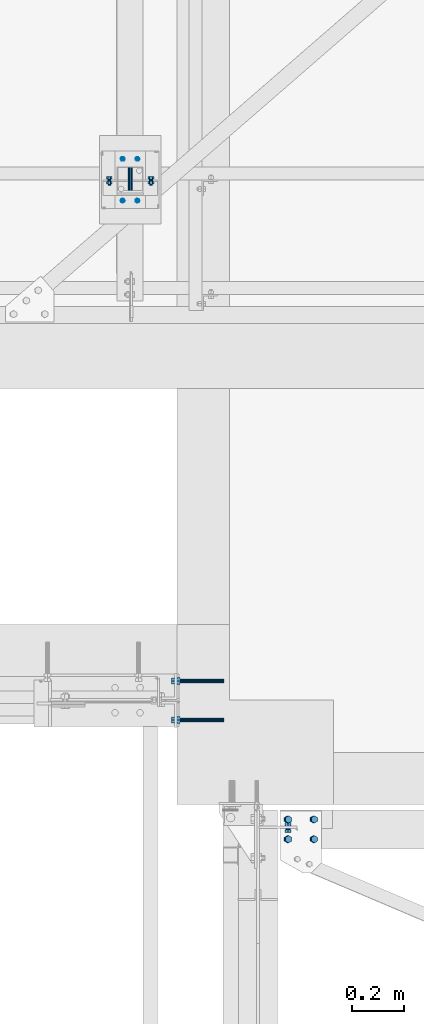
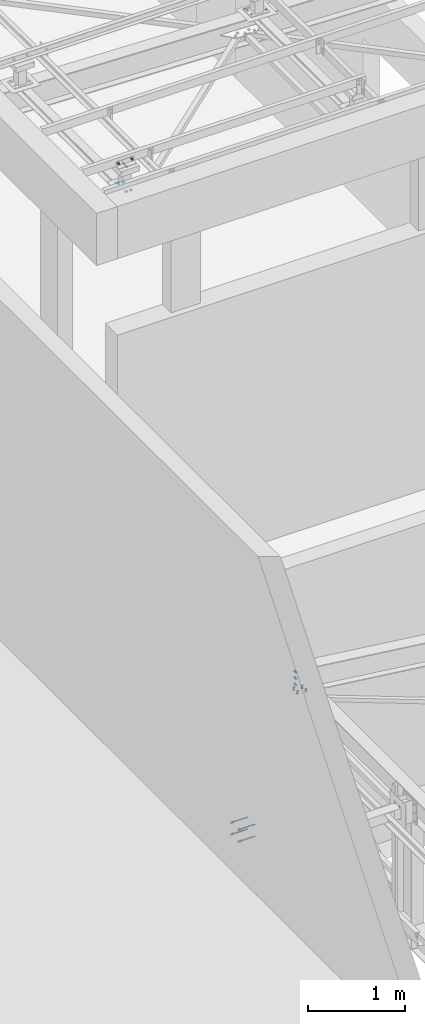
# One storey, part 222 of 3134: 8 mechanical fasteners, 5 elements without a shape of their own.
"""IFC2X3 building model written with IfcOpenShell, lengths in millimetres."""

from ifc_helpers import new_model, si_unit, frame, origin_with_axes, place, context, subcontext, project, spatial, faceted_brep, source, transform, mapped, material, type_object, element, aggregate, save


model = new_model("IFC2X3")

# Units and contexts
model_context = context("Model", 3, precision=1e-05, world=origin_with_axes())
body_context = subcontext(model_context, "Body", "Model", "MODEL_VIEW")
ifc_project = project(units=[si_unit("LENGTHUNIT", "METRE", prefix="MILLI"), si_unit("AREAUNIT", "SQUARE_METRE"), si_unit("VOLUMEUNIT", "CUBIC_METRE"), si_unit("MASSUNIT", "GRAM", prefix="KILO"), si_unit("TIMEUNIT", "SECOND"), si_unit("PLANEANGLEUNIT", "RADIAN"), si_unit("SOLIDANGLEUNIT", "STERADIAN"), si_unit("THERMODYNAMICTEMPERATUREUNIT", "DEGREE_CELSIUS"), si_unit("LUMINOUSINTENSITYUNIT", "LUMEN")], contexts=[model_context])

# Site, building, storey
site_placement = place(None, origin_with_axes())
site = spatial("IfcSite", under=ifc_project, at=site_placement, CompositionType="ELEMENT")
building_placement = place(site_placement, origin_with_axes())
building = spatial("IfcBuilding", under=site, at=building_placement, Name="Undefined", CompositionType="ELEMENT")
storey_placement = place(building_placement, origin_with_axes())
storey = spatial("IfcBuildingStorey", under=building, at=storey_placement, Name="Undefined", CompositionType="ELEMENT", Elevation=0.0)

# Assembly, mechanical fastener
assembly_1_placement = place(storey_placement, origin_with_axes())
assembly_1 = element("IfcElementAssembly", 1, at=assembly_1_placement, inside=storey, AssemblyPlace="NOTDEFINED", PredefinedType="RIGID_FRAME")
ifc_material_1 = material(Name="HILTI-HAS")
mechanical_fastener_type = type_object("IfcMechanicalFastenerType", Name="Bolt assembly")
shared_shape_1 = source(origin_with_axes(), body_context, "Body", "Brep", [
    faceted_brep([(13.856406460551, -20.56, 0.0), (6.92820323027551, -20.56, 12.0), (-6.92820323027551, -20.56, 12.0), (-13.856406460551, -20.56, 1.69692038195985e-15), (-6.92820323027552, -20.56, -12.0), (6.9282032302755, -20.56, -12.0), (6.9282032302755, -10.0, -12.0), (-6.92820323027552, -10.0, -12.0), (-13.856406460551, -10.0, 1.69692038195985e-15), (-6.92820323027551, -10.0, 12.0), (6.92820323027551, -10.0, 12.0), (13.856406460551, -10.0, 0.0), (8.0, -10.0, 0.0), (6.92820323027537, -10.0, 4.00000000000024), (3.99999999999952, -10.0, 6.92820323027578), (-8.29068785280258e-13, -10.0, 8.0), (-4.00000000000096, -10.0, 6.92820323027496), (-6.9282032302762, -10.0, 3.99999999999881), (-8.0, -10.0, -1.65813757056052e-12), (-6.92820323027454, -10.0, -4.00000000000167), (-3.99999999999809, -10.0, -6.92820323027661), (2.47832457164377e-12, -10.0, -8.0), (4.00000000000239, -10.0, -6.92820323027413), (6.92820323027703, -10.0, -3.99999999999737), (6.92820323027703, 180.0, -3.99999999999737), (4.00000000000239, 180.0, -6.92820323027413), (2.47832457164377e-12, 180.0, -8.0), (-3.99999999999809, 180.0, -6.92820323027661), (-6.92820323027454, 180.0, -4.00000000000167), (-8.0, 180.0, -1.65813757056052e-12), (-6.9282032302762, 180.0, 3.99999999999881), (-4.00000000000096, 180.0, 6.92820323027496), (-8.29068785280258e-13, 180.0, 8.0), (3.99999999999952, 180.0, 6.92820323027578), (6.92820323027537, 180.0, 4.00000000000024), (8.0, 180.0, 0.0), (15.3344231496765, 7.105427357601e-15, 0.0), (7.66721157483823, 7.105427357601e-15, 13.28), (-7.66721157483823, 7.105427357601e-15, 13.28), (-15.3344231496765, 7.105427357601e-15, 1.87792522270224e-15), (-7.66721157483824, 7.105427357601e-15, -13.28), (7.66721157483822, 7.105427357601e-15, -13.28), (7.66721157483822, 10.56, -13.28), (-7.66721157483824, 10.56, -13.28), (-15.3344231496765, 10.56, 1.87792522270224e-15), (-7.66721157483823, 10.56, 13.28), (7.66721157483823, 10.56, 13.28), (15.3344231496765, 10.56, 0.0)], [[[0, 1, 2, 3, 4, 5]], [[6, 7, 8, 9, 10, 11]], [[0, 11, 10, 1]], [[1, 10, 9, 2]], [[2, 9, 8, 3]], [[3, 8, 7, 4]], [[4, 7, 6, 5]], [[5, 6, 11, 0]], [[12, 13, 14, 15, 16, 17, 18, 19, 20, 21, 22, 23]], [[24, 25, 26, 27, 28, 29, 30, 31, 32, 33, 34, 35]], [[12, 35, 34, 13]], [[13, 34, 33, 14]], [[14, 33, 32, 15]], [[15, 32, 31, 16]], [[16, 31, 30, 17]], [[17, 30, 29, 18]], [[18, 29, 28, 19]], [[19, 28, 27, 20]], [[20, 27, 26, 21]], [[21, 26, 25, 22]], [[22, 25, 24, 23]], [[23, 24, 35, 12]], [[36, 37, 38, 39, 40, 41]], [[42, 43, 44, 45, 46, 47]], [[36, 47, 46, 37]], [[37, 46, 45, 38]], [[38, 45, 44, 39]], [[39, 44, 43, 40]], [[40, 43, 42, 41]], [[41, 42, 47, 36]]]),
    faceted_brep([(9.0, -10.0, 0.0), (7.79422863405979, -10.0, 4.50000000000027), (4.49999999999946, -10.0, 7.79422863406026), (-9.3270238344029e-13, -10.0, 9.0), (-4.50000000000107, -10.0, 7.79422863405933), (-7.79422863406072, -10.0, 4.49999999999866), (-9.0, -10.0, -1.86540476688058e-12), (-7.79422863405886, -10.0, -4.50000000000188), (-4.49999999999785, -10.0, -7.79422863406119), (2.78811514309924e-12, -10.0, -9.0), (4.50000000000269, -10.0, -7.7942286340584), (7.79422863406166, -10.0, -4.49999999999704), (7.79422863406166, 0.100000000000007, -4.49999999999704), (4.50000000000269, 0.100000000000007, -7.7942286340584), (2.78811514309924e-12, 0.100000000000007, -9.0), (-4.49999999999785, 0.100000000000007, -7.79422863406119), (-7.79422863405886, 0.100000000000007, -4.50000000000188), (-9.0, 0.100000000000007, -1.86540476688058e-12), (-7.79422863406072, 0.100000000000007, 4.49999999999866), (-4.50000000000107, 0.100000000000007, 7.79422863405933), (-9.3270238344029e-13, 0.100000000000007, 9.0), (4.49999999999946, 0.100000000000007, 7.79422863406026), (7.79422863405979, 0.100000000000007, 4.50000000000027), (9.0, 0.100000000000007, 0.0)], [[[0, 1, 2, 3, 4, 5, 6, 7, 8, 9, 10, 11]], [[12, 13, 14, 15, 16, 17, 18, 19, 20, 21, 22, 23]], [[0, 23, 22, 1]], [[1, 22, 21, 2]], [[2, 21, 20, 3]], [[3, 20, 19, 4]], [[4, 19, 18, 5]], [[5, 18, 17, 6]], [[6, 17, 16, 7]], [[7, 16, 15, 8]], [[8, 15, 14, 9]], [[9, 14, 13, 10]], [[10, 13, 12, 11]], [[11, 12, 23, 0]]]),
])
mechanical_fastener_1_placement = place(assembly_1_placement, frame((20539.9, 48449.04, 3641.57591409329), z_axis=(0.0, -1.0, 0.0), x_axis=(0.0, 0.0, -1.0)))
mechanical_fastener_1 = element("IfcMechanicalFastener", 2, at=mechanical_fastener_1_placement, type_object=mechanical_fastener_type, material=ifc_material_1, Name="Bolt assembly", NominalDiameter=16.0, NominalLength=190.0, context=body_context, shape_type="MappedRepresentation", body=[
    mapped(shared_shape_1, transform((0.0, 0.0, 0.0))),
    mapped(shared_shape_1, transform((150.0, 0.0, 0.0))),
])
aggregate(assembly_1, [mechanical_fastener_1])

assembly_2_placement = place(storey_placement, origin_with_axes())
assembly_2 = element("IfcElementAssembly", 3, at=assembly_2_placement, inside=storey, AssemblyPlace="NOTDEFINED", PredefinedType="RIGID_FRAME")
mechanical_fastener_2_placement = place(assembly_2_placement, frame((20539.9, 48599.04, 3641.57591409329), z_axis=(0.0, -1.0, 0.0), x_axis=(0.0, 0.0, -1.0)))
mechanical_fastener_2 = element("IfcMechanicalFastener", 4, at=mechanical_fastener_2_placement, type_object=mechanical_fastener_type, material=ifc_material_1, Name="Bolt assembly", NominalDiameter=16.0, NominalLength=190.0, context=body_context, shape_type="MappedRepresentation", body=[
    mapped(shared_shape_1, transform((0.0, 0.0, 0.0))),
    mapped(shared_shape_1, transform((150.0, 0.0, 0.0))),
])
aggregate(assembly_2, [mechanical_fastener_2])

# Assembly, mechanical fasteners
assembly_3_placement = place(storey_placement, origin_with_axes())
assembly_3 = element("IfcElementAssembly", 5, at=assembly_3_placement, inside=storey, Name="300", AssemblyPlace="NOTDEFINED", PredefinedType="RIGID_FRAME")
ifc_material_2 = material(Name="8.8")
shared_shape_2 = source(origin_with_axes(), body_context, "Body", "Brep", [
    faceted_brep([(13.856406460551, -19.199990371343, 0.0), (6.92820323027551, -19.199990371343, 12.0), (-6.92820323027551, -19.199990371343, 12.0), (-13.856406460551, -19.199990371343, 1.69692038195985e-15), (-6.92820323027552, -19.199990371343, -12.0), (6.9282032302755, -19.199990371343, -12.0), (6.9282032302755, -9.19999037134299, -12.0), (-6.92820323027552, -9.19999037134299, -12.0), (-13.856406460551, -9.19999037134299, 1.69692038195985e-15), (-6.92820323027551, -9.19999037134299, 12.0), (6.92820323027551, -9.19999037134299, 12.0), (13.856406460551, -9.19999037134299, 0.0), (8.0, -9.19999037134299, 0.0), (6.92820323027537, -9.19999037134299, 4.00000000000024), (3.99999999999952, -9.19999037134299, 6.92820323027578), (-8.29068785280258e-13, -9.19999037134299, 8.0), (-4.00000000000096, -9.19999037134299, 6.92820323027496), (-6.9282032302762, -9.19999037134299, 3.99999999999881), (-8.0, -9.19999037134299, -1.65813757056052e-12), (-6.92820323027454, -9.19999037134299, -4.00000000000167), (-3.99999999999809, -9.19999037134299, -6.92820323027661), (2.47832457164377e-12, -9.19999037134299, -8.0), (4.00000000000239, -9.19999037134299, -6.92820323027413), (6.92820323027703, -9.19999037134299, -3.99999999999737), (6.92820323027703, 25.800009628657, -3.99999999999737), (4.00000000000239, 25.800009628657, -6.92820323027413), (2.47832457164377e-12, 25.800009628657, -8.0), (-3.99999999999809, 25.800009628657, -6.92820323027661), (-6.92820323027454, 25.800009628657, -4.00000000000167), (-8.0, 25.800009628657, -1.65813757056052e-12), (-6.9282032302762, 25.800009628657, 3.99999999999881), (-4.00000000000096, 25.800009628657, 6.92820323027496), (-8.29068785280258e-13, 25.800009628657, 8.0), (3.99999999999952, 25.800009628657, 6.92820323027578), (6.92820323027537, 25.800009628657, 4.00000000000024), (8.0, 25.800009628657, 0.0), (13.856406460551, 8.00000637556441, 0.0), (6.92820323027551, 8.00000637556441, 12.0), (-6.92820323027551, 8.00000637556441, 12.0), (-13.856406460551, 8.00000637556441, 1.69692038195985e-15), (-6.92820323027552, 8.00000637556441, -12.0), (6.9282032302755, 8.00000637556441, -12.0), (6.9282032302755, 21.0000063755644, -12.0), (-6.92820323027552, 21.0000063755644, -12.0), (-13.856406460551, 21.0000063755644, 1.69692038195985e-15), (-6.92820323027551, 21.0000063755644, 12.0), (6.92820323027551, 21.0000063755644, 12.0), (13.856406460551, 21.0000063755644, 0.0)], [[[0, 1, 2, 3, 4, 5]], [[6, 7, 8, 9, 10, 11]], [[0, 11, 10, 1]], [[1, 10, 9, 2]], [[2, 9, 8, 3]], [[3, 8, 7, 4]], [[4, 7, 6, 5]], [[5, 6, 11, 0]], [[12, 13, 14, 15, 16, 17, 18, 19, 20, 21, 22, 23]], [[24, 25, 26, 27, 28, 29, 30, 31, 32, 33, 34, 35]], [[12, 35, 34, 13]], [[13, 34, 33, 14]], [[14, 33, 32, 15]], [[15, 32, 31, 16]], [[16, 31, 30, 17]], [[17, 30, 29, 18]], [[18, 29, 28, 19]], [[19, 28, 27, 20]], [[20, 27, 26, 21]], [[21, 26, 25, 22]], [[22, 25, 24, 23]], [[23, 24, 35, 12]], [[36, 37, 38, 39, 40, 41]], [[42, 43, 44, 45, 46, 47]], [[36, 47, 46, 37]], [[37, 46, 45, 38]], [[38, 45, 44, 39]], [[39, 44, 43, 40]], [[40, 43, 42, 41]], [[41, 42, 47, 36]]]),
    faceted_brep([(9.0, -0.1, 0.0), (7.79422863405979, -0.1, 4.50000000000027), (4.49999999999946, -0.1, 7.79422863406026), (-9.3270238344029e-13, -0.1, 9.0), (-4.50000000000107, -0.1, 7.79422863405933), (-7.79422863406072, -0.1, 4.49999999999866), (-9.0, -0.1, -1.86540476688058e-12), (-7.79422863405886, -0.1, -4.50000000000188), (-4.49999999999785, -0.1, -7.79422863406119), (2.78811514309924e-12, -0.1, -9.0), (4.50000000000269, -0.1, -7.7942286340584), (7.79422863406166, -0.1, -4.49999999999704), (7.79422863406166, 8.00000000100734, -4.49999999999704), (4.50000000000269, 8.00000000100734, -7.7942286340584), (2.78811514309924e-12, 8.00000000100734, -9.0), (-4.49999999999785, 8.00000000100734, -7.79422863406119), (-7.79422863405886, 8.00000000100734, -4.50000000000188), (-9.0, 8.00000000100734, -1.86540476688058e-12), (-7.79422863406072, 8.00000000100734, 4.49999999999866), (-4.50000000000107, 8.00000000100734, 7.79422863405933), (-9.3270238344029e-13, 8.00000000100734, 9.0), (4.49999999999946, 8.00000000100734, 7.79422863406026), (7.79422863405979, 8.00000000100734, 4.50000000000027), (9.0, 8.00000000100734, 0.0), (9.0, -9.09999037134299, 0.0), (7.79422863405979, -9.09999037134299, 4.50000000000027), (4.49999999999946, -9.09999037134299, 7.79422863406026), (-9.3270238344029e-13, -9.09999037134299, 9.0), (-4.50000000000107, -9.09999037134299, 7.79422863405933), (-7.79422863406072, -9.09999037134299, 4.49999999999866), (-9.0, -9.09999037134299, -1.86540476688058e-12), (-7.79422863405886, -9.09999037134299, -4.50000000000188), (-4.49999999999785, -9.09999037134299, -7.79422863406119), (2.78811514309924e-12, -9.09999037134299, -9.0), (4.50000000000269, -9.09999037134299, -7.7942286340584), (7.79422863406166, -9.09999037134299, -4.49999999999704), (7.79422863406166, 0.100000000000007, -4.49999999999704), (4.50000000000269, 0.100000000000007, -7.7942286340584), (2.78811514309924e-12, 0.100000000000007, -9.0), (-4.49999999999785, 0.100000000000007, -7.79422863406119), (-7.79422863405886, 0.100000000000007, -4.50000000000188), (-9.0, 0.100000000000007, -1.86540476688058e-12), (-7.79422863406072, 0.100000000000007, 4.49999999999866), (-4.50000000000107, 0.100000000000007, 7.79422863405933), (-9.3270238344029e-13, 0.100000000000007, 9.0), (4.49999999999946, 0.100000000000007, 7.79422863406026), (7.79422863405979, 0.100000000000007, 4.50000000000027), (9.0, 0.100000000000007, 0.0)], [[[0, 1, 2, 3, 4, 5, 6, 7, 8, 9, 10, 11]], [[12, 13, 14, 15, 16, 17, 18, 19, 20, 21, 22, 23]], [[0, 23, 22, 1]], [[1, 22, 21, 2]], [[2, 21, 20, 3]], [[3, 20, 19, 4]], [[4, 19, 18, 5]], [[5, 18, 17, 6]], [[6, 17, 16, 7]], [[7, 16, 15, 8]], [[8, 15, 14, 9]], [[9, 14, 13, 10]], [[10, 13, 12, 11]], [[11, 12, 23, 0]], [[24, 25, 26, 27, 28, 29, 30, 31, 32, 33, 34, 35]], [[36, 37, 38, 39, 40, 41, 42, 43, 44, 45, 46, 47]], [[24, 47, 46, 25]], [[25, 46, 45, 26]], [[26, 45, 44, 27]], [[27, 44, 43, 28]], [[28, 43, 42, 29]], [[29, 42, 41, 30]], [[30, 41, 40, 31]], [[31, 40, 39, 32]], [[32, 39, 38, 33]], [[33, 38, 37, 34]], [[34, 37, 36, 35]], [[35, 36, 47, 24]]]),
])
mechanical_fastener_3_placement = place(assembly_3_placement, frame((21064.0403957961, 48067.9995130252, 5493.64962652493), z_axis=(0.992623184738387, 1.63108538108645e-05, -0.12124031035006), x_axis=(1.62000016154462e-05, -0.999999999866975, -1.90000018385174e-06)))
mechanical_fastener_3 = element("IfcMechanicalFastener", 6, at=mechanical_fastener_3_placement, type_object=mechanical_fastener_type, material=ifc_material_2, Name="Bolt assembly", NominalDiameter=16.0, NominalLength=35.0, context=body_context, shape_type="MappedRepresentation", body=[
    mapped(shared_shape_2, transform((0.0, 0.0, 0.0))),
    mapped(shared_shape_2, transform((76.0, 0.0, 0.0))),
])
mechanical_fastener_4_placement = place(assembly_3_placement, frame((20964.7780773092, 48067.9995130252, 5505.77365756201), z_axis=(0.992623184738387, 1.63108538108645e-05, -0.12124031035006), x_axis=(1.62000016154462e-05, -0.999999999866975, -1.90000018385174e-06)))
mechanical_fastener_4 = element("IfcMechanicalFastener", 7, at=mechanical_fastener_4_placement, type_object=mechanical_fastener_type, material=ifc_material_2, Name="Bolt assembly", NominalDiameter=16.0, NominalLength=35.0, context=body_context, shape_type="MappedRepresentation", body=[
    mapped(shared_shape_2, transform((0.0, 0.0, 0.0))),
    mapped(shared_shape_2, transform((76.0, 0.0, 0.0))),
])
shared_shape_3 = source(origin_with_axes(), body_context, "Body", "Brep", [
    faceted_brep([(13.856406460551, -13.0499999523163, 0.0), (6.92820323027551, -13.0499999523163, 12.0), (-6.92820323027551, -13.0499999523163, 12.0), (-13.856406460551, -13.0499999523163, 1.69692038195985e-15), (-6.92820323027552, -13.0499999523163, -12.0), (6.9282032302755, -13.0499999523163, -12.0), (6.9282032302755, -3.04999995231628, -12.0), (-6.92820323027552, -3.04999995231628, -12.0), (-13.856406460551, -3.04999995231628, 1.69692038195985e-15), (-6.92820323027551, -3.04999995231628, 12.0), (6.92820323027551, -3.04999995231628, 12.0), (13.856406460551, -3.04999995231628, 0.0), (8.0, -3.04999995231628, 0.0), (6.92820323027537, -3.04999995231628, 4.00000000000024), (3.99999999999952, -3.04999995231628, 6.92820323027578), (-8.29068785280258e-13, -3.04999995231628, 8.0), (-4.00000000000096, -3.04999995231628, 6.92820323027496), (-6.9282032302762, -3.04999995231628, 3.99999999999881), (-8.0, -3.04999995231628, -1.65813757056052e-12), (-6.92820323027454, -3.04999995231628, -4.00000000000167), (-3.99999999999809, -3.04999995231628, -6.92820323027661), (2.47832457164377e-12, -3.04999995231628, -8.0), (4.00000000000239, -3.04999995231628, -6.92820323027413), (6.92820323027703, -3.04999995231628, -3.99999999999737), (6.92820323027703, 31.9500000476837, -3.99999999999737), (4.00000000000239, 31.9500000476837, -6.92820323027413), (2.47832457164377e-12, 31.9500000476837, -8.0), (-3.99999999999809, 31.9500000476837, -6.92820323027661), (-6.92820323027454, 31.9500000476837, -4.00000000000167), (-8.0, 31.9500000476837, -1.65813757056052e-12), (-6.9282032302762, 31.9500000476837, 3.99999999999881), (-4.00000000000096, 31.9500000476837, 6.92820323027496), (-8.29068785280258e-13, 31.9500000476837, 8.0), (3.99999999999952, 31.9500000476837, 6.92820323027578), (6.92820323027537, 31.9500000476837, 4.00000000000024), (8.0, 31.9500000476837, 0.0), (13.856406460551, 13.0500000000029, 0.0), (6.92820323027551, 13.0500000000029, 12.0), (-6.92820323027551, 13.0500000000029, 12.0), (-13.856406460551, 13.0500000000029, 1.69692038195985e-15), (-6.92820323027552, 13.0500000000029, -12.0), (6.9282032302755, 13.0500000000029, -12.0), (6.9282032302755, 26.0500000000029, -12.0), (-6.92820323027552, 26.0500000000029, -12.0), (-13.856406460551, 26.0500000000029, 1.69692038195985e-15), (-6.92820323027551, 26.0500000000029, 12.0), (6.92820323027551, 26.0500000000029, 12.0), (13.856406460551, 26.0500000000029, 0.0)], [[[0, 1, 2, 3, 4, 5]], [[6, 7, 8, 9, 10, 11]], [[0, 11, 10, 1]], [[1, 10, 9, 2]], [[2, 9, 8, 3]], [[3, 8, 7, 4]], [[4, 7, 6, 5]], [[5, 6, 11, 0]], [[12, 13, 14, 15, 16, 17, 18, 19, 20, 21, 22, 23]], [[24, 25, 26, 27, 28, 29, 30, 31, 32, 33, 34, 35]], [[12, 35, 34, 13]], [[13, 34, 33, 14]], [[14, 33, 32, 15]], [[15, 32, 31, 16]], [[16, 31, 30, 17]], [[17, 30, 29, 18]], [[18, 29, 28, 19]], [[19, 28, 27, 20]], [[20, 27, 26, 21]], [[21, 26, 25, 22]], [[22, 25, 24, 23]], [[23, 24, 35, 12]], [[36, 37, 38, 39, 40, 41]], [[42, 43, 44, 45, 46, 47]], [[36, 47, 46, 37]], [[37, 46, 45, 38]], [[38, 45, 44, 39]], [[39, 44, 43, 40]], [[40, 43, 42, 41]], [[41, 42, 47, 36]]]),
    faceted_brep([(9.0, 2.95000000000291, 0.0), (7.79422863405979, 2.95000000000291, 4.50000000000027), (4.49999999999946, 2.95000000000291, 7.79422863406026), (-9.3270238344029e-13, 2.95000000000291, 9.0), (-4.50000000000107, 2.95000000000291, 7.79422863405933), (-7.79422863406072, 2.95000000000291, 4.49999999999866), (-9.0, 2.95000000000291, -1.86540476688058e-12), (-7.79422863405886, 2.95000000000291, -4.50000000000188), (-4.49999999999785, 2.95000000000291, -7.79422863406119), (2.78811514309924e-12, 2.95000000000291, -9.0), (4.50000000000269, 2.95000000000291, -7.7942286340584), (7.79422863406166, 2.95000000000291, -4.49999999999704), (7.79422863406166, 13.0500000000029, -4.49999999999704), (4.50000000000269, 13.0500000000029, -7.7942286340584), (2.78811514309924e-12, 13.0500000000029, -9.0), (-4.49999999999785, 13.0500000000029, -7.79422863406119), (-7.79422863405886, 13.0500000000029, -4.50000000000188), (-9.0, 13.0500000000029, -1.86540476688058e-12), (-7.79422863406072, 13.0500000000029, 4.49999999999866), (-4.50000000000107, 13.0500000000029, 7.79422863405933), (-9.3270238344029e-13, 13.0500000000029, 9.0), (4.49999999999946, 13.0500000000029, 7.79422863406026), (7.79422863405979, 13.0500000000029, 4.50000000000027), (9.0, 13.0500000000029, 0.0), (9.0, -2.94999995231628, 0.0), (7.79422863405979, -2.94999995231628, 4.50000000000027), (4.49999999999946, -2.94999995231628, 7.79422863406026), (-9.3270238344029e-13, -2.94999995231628, 9.0), (-4.50000000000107, -2.94999995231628, 7.79422863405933), (-7.79422863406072, -2.94999995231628, 4.49999999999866), (-9.0, -2.94999995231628, -1.86540476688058e-12), (-7.79422863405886, -2.94999995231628, -4.50000000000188), (-4.49999999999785, -2.94999995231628, -7.79422863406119), (2.78811514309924e-12, -2.94999995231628, -9.0), (4.50000000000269, -2.94999995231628, -7.7942286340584), (7.79422863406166, -2.94999995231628, -4.49999999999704), (7.79422863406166, 3.14999995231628, -4.49999999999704), (4.50000000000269, 3.14999995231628, -7.7942286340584), (2.78811514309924e-12, 3.14999995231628, -9.0), (-4.49999999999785, 3.14999995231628, -7.79422863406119), (-7.79422863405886, 3.14999995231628, -4.50000000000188), (-9.0, 3.14999995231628, -1.86540476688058e-12), (-7.79422863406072, 3.14999995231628, 4.49999999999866), (-4.50000000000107, 3.14999995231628, 7.79422863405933), (-9.3270238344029e-13, 3.14999995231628, 9.0), (4.49999999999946, 3.14999995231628, 7.79422863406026), (7.79422863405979, 3.14999995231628, 4.50000000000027), (9.0, 3.14999995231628, 0.0)], [[[0, 1, 2, 3, 4, 5, 6, 7, 8, 9, 10, 11]], [[12, 13, 14, 15, 16, 17, 18, 19, 20, 21, 22, 23]], [[0, 23, 22, 1]], [[1, 22, 21, 2]], [[2, 21, 20, 3]], [[3, 20, 19, 4]], [[4, 19, 18, 5]], [[5, 18, 17, 6]], [[6, 17, 16, 7]], [[7, 16, 15, 8]], [[8, 15, 14, 9]], [[9, 14, 13, 10]], [[10, 13, 12, 11]], [[11, 12, 23, 0]], [[24, 25, 26, 27, 28, 29, 30, 31, 32, 33, 34, 35]], [[36, 37, 38, 39, 40, 41, 42, 43, 44, 45, 46, 47]], [[24, 47, 46, 25]], [[25, 46, 45, 26]], [[26, 45, 44, 27]], [[27, 44, 43, 28]], [[28, 43, 42, 29]], [[29, 42, 41, 30]], [[30, 41, 40, 31]], [[31, 40, 39, 32]], [[32, 39, 38, 33]], [[33, 38, 37, 34]], [[34, 37, 36, 35]], [[35, 36, 47, 24]]]),
])
mechanical_fastener_5_placement = place(assembly_3_placement, frame((20965.0, 48030.0, 5735.35014950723), z_axis=(1.0, 0.0, 0.0), x_axis=(0.0, 0.0, -1.0)))
mechanical_fastener_5 = element("IfcMechanicalFastener", 8, at=mechanical_fastener_5_placement, type_object=mechanical_fastener_type, material=ifc_material_2, Name="Bolt assembly", NominalDiameter=16.0, NominalLength=35.0, context=body_context, shape_type="MappedRepresentation", body=[
    mapped(shared_shape_3, transform((0.0, 0.0, 0.0))),
    mapped(shared_shape_3, transform((80.0, 0.0, 0.0))),
    mapped(shared_shape_3, transform((160.0, 0.0, 0.0))),
])
aggregate(assembly_3, [mechanical_fastener_3, mechanical_fastener_4, mechanical_fastener_5])

# Assembly, mechanical fastener
assembly_4_placement = place(storey_placement, origin_with_axes())
assembly_4 = element("IfcElementAssembly", 9, at=assembly_4_placement, inside=storey, AssemblyPlace="NOTDEFINED", PredefinedType="RIGID_FRAME")
shared_shape_4 = source(origin_with_axes(), body_context, "Body", "Brep", [
    faceted_brep([(7.0, 13.0000253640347, 0.0), (6.06217782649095, 13.0000253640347, 3.50000000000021), (3.49999999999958, 13.0000253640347, 6.06217782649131), (-7.25435187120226e-13, 13.0000253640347, 7.0), (-3.50000000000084, 13.0000253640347, 6.06217782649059), (-6.06217782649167, 13.0000253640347, 3.49999999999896), (-7.0, 13.0000253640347, -1.45087037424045e-12), (-6.06217782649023, 13.0000253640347, -3.50000000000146), (-3.49999999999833, 13.0000253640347, -6.06217782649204), (2.1685340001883e-12, 13.0000253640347, -7.0), (3.50000000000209, 13.0000253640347, -6.06217782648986), (6.0621778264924, 13.0000253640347, -3.4999999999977), (6.0621778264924, 15.0999999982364, -3.4999999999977), (3.50000000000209, 15.0999999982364, -6.06217782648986), (2.1685340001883e-12, 15.0999999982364, -7.0), (-3.49999999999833, 15.0999999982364, -6.06217782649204), (-6.06217782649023, 15.0999999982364, -3.50000000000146), (-7.0, 15.0999999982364, -1.45087037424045e-12), (-6.06217782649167, 15.0999999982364, 3.49999999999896), (-3.50000000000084, 15.0999999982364, 6.06217782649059), (-7.25435187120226e-13, 15.0999999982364, 7.0), (3.49999999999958, 15.0999999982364, 6.06217782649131), (6.06217782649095, 15.0999999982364, 3.50000000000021), (7.0, 15.0999999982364, 0.0)], [[[0, 1, 2, 3, 4, 5, 6, 7, 8, 9, 10, 11]], [[12, 13, 14, 15, 16, 17, 18, 19, 20, 21, 22, 23]], [[0, 23, 22, 1]], [[1, 22, 21, 2]], [[2, 21, 20, 3]], [[3, 20, 19, 4]], [[4, 19, 18, 5]], [[5, 18, 17, 6]], [[6, 17, 16, 7]], [[7, 16, 15, 8]], [[8, 15, 14, 9]], [[9, 14, 13, 10]], [[10, 13, 12, 11]], [[11, 12, 23, 0]]]),
])
mechanical_fastener_6_placement = place(assembly_4_placement, frame((20331.360203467, 50520.0016352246, 10555.8249309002), z_axis=(0.0, -1.0, 0.0), x_axis=(0.999519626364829, 0.0, -0.030992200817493)))
mechanical_fastener_6 = element("IfcMechanicalFastener", 10, at=mechanical_fastener_6_placement, type_object=mechanical_fastener_type, material=ifc_material_2, Name="Bolt assembly", NominalDiameter=12.0, NominalLength=2.0, context=body_context, shape_type="MappedRepresentation", body=[
    mapped(shared_shape_4, transform((0.0, 5.3114490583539e-10, 79.9999999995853))),
    mapped(shared_shape_4, transform((55.9999999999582, 4.54747350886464e-13, 80.0))),
    mapped(shared_shape_4, transform((0.0, -5.32963895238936e-10, -79.9999999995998))),
    mapped(shared_shape_4, transform((55.9999999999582, 4.54747350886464e-13, -80.0))),
])
aggregate(assembly_4, [mechanical_fastener_6])

# Assembly, mechanical fasteners
assembly_5_placement = place(storey_placement, origin_with_axes())
assembly_5 = element("IfcElementAssembly", 11, at=assembly_5_placement, inside=storey, AssemblyPlace="NOTDEFINED", PredefinedType="RIGID_FRAME")
shared_shape_5 = source(origin_with_axes(), body_context, "Body", "Brep", [
    faceted_brep([(9.0, -50.0, 0.0), (7.79422863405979, -50.0, 4.50000000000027), (4.49999999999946, -50.0, 7.79422863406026), (-9.3270238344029e-13, -50.0, 9.0), (-4.50000000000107, -50.0, 7.79422863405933), (-7.79422863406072, -50.0, 4.49999999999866), (-9.0, -50.0, -1.86540476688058e-12), (-7.79422863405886, -50.0, -4.50000000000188), (-4.49999999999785, -50.0, -7.79422863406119), (2.78811514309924e-12, -50.0, -9.0), (4.50000000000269, -50.0, -7.7942286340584), (7.79422863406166, -50.0, -4.49999999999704), (7.79422863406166, 50.1, -4.49999999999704), (4.50000000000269, 50.1, -7.7942286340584), (2.78811514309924e-12, 50.1, -9.0), (-4.49999999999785, 50.1, -7.79422863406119), (-7.79422863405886, 50.1, -4.50000000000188), (-9.0, 50.1, -1.86540476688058e-12), (-7.79422863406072, 50.1, 4.49999999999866), (-4.50000000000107, 50.1, 7.79422863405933), (-9.3270238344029e-13, 50.1, 9.0), (4.49999999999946, 50.1, 7.79422863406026), (7.79422863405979, 50.1, 4.50000000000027), (9.0, 50.1, 0.0)], [[[0, 1, 2, 3, 4, 5, 6, 7, 8, 9, 10, 11]], [[12, 13, 14, 15, 16, 17, 18, 19, 20, 21, 22, 23]], [[0, 23, 22, 1]], [[1, 22, 21, 2]], [[2, 21, 20, 3]], [[3, 20, 19, 4]], [[4, 19, 18, 5]], [[5, 18, 17, 6]], [[6, 17, 16, 7]], [[7, 16, 15, 8]], [[8, 15, 14, 9]], [[9, 14, 13, 10]], [[10, 13, 12, 11]], [[11, 12, 23, 0]]]),
])
mechanical_fastener_7_placement = place(assembly_5_placement, frame((20360.0, 50520.0, 10851.0), z_axis=(-1.0, 0.0, 0.0), x_axis=(0.0, 0.0, 1.0)))
mechanical_fastener_7 = element("IfcMechanicalFastener", 12, at=mechanical_fastener_7_placement, type_object=mechanical_fastener_type, material=ifc_material_2, Name="Bolt assembly", NominalDiameter=16.0, NominalLength=100.0, context=body_context, shape_type="MappedRepresentation", body=[
    mapped(shared_shape_5, transform((0.0, 0.0, 0.0))),
])
shared_shape_6 = source(origin_with_axes(), body_context, "Body", "Brep", [
    faceted_brep([(10.9696551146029, -12.0, 0.0), (5.48482755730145, -12.0, 9.5), (-5.48482755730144, -12.0, 9.5), (-10.9696551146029, -12.0, 1.34339530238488e-15), (-5.48482755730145, -12.0, -9.5), (5.48482755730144, -12.0, -9.50000000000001), (5.48482755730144, -4.0, -9.50000000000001), (-5.48482755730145, -4.0, -9.5), (-10.9696551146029, -4.0, 1.34339530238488e-15), (-5.48482755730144, -4.0, 9.5), (5.48482755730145, -4.0, 9.5), (10.9696551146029, -4.0, 0.0), (6.0, -4.0, 0.0), (5.19615242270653, -4.0, 3.00000000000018), (2.99999999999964, -4.0, 5.19615242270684), (-6.21801588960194e-13, -4.0, 6.0), (-3.00000000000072, -4.0, 5.19615242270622), (-5.19615242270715, -4.0, 2.9999999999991), (-6.0, -4.0, -1.24360317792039e-12), (-5.19615242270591, -4.0, -3.00000000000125), (-2.99999999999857, -4.0, -5.19615242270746), (1.85874342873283e-12, -4.0, -6.0), (3.00000000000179, -4.0, -5.1961524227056), (5.19615242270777, -4.0, -2.99999999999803), (5.19615242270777, 21.0, -2.99999999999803), (3.00000000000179, 21.0, -5.1961524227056), (1.85874342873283e-12, 21.0, -6.0), (-2.99999999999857, 21.0, -5.19615242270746), (-5.19615242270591, 21.0, -3.00000000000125), (-6.0, 21.0, -1.24360317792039e-12), (-5.19615242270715, 21.0, 2.9999999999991), (-3.00000000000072, 21.0, 5.19615242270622), (-6.21801588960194e-13, 21.0, 6.0), (2.99999999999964, 21.0, 5.19615242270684), (5.19615242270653, 21.0, 3.00000000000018), (6.0, 21.0, 0.0), (10.9696551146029, 6.00000000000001, 0.0), (5.48482755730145, 6.00000000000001, 9.5), (-5.48482755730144, 6.00000000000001, 9.5), (-10.9696551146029, 6.00000000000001, 1.34339530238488e-15), (-5.48482755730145, 6.00000000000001, -9.5), (5.48482755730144, 6.00000000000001, -9.50000000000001), (5.48482755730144, 16.0, -9.50000000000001), (-5.48482755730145, 16.0, -9.5), (-10.9696551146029, 16.0, 1.34339530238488e-15), (-5.48482755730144, 16.0, 9.5), (5.48482755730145, 16.0, 9.5), (10.9696551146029, 16.0, 0.0)], [[[0, 1, 2, 3, 4, 5]], [[6, 7, 8, 9, 10, 11]], [[0, 11, 10, 1]], [[1, 10, 9, 2]], [[2, 9, 8, 3]], [[3, 8, 7, 4]], [[4, 7, 6, 5]], [[5, 6, 11, 0]], [[12, 13, 14, 15, 16, 17, 18, 19, 20, 21, 22, 23]], [[24, 25, 26, 27, 28, 29, 30, 31, 32, 33, 34, 35]], [[12, 35, 34, 13]], [[13, 34, 33, 14]], [[14, 33, 32, 15]], [[15, 32, 31, 16]], [[16, 31, 30, 17]], [[17, 30, 29, 18]], [[18, 29, 28, 19]], [[19, 28, 27, 20]], [[20, 27, 26, 21]], [[21, 26, 25, 22]], [[22, 25, 24, 23]], [[23, 24, 35, 12]], [[36, 37, 38, 39, 40, 41]], [[42, 43, 44, 45, 46, 47]], [[36, 47, 46, 37]], [[37, 46, 45, 38]], [[38, 45, 44, 39]], [[39, 44, 43, 40]], [[40, 43, 42, 41]], [[41, 42, 47, 36]]]),
    faceted_brep([(7.0, -3.9, 0.0), (6.06217782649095, -3.9, 3.50000000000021), (3.49999999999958, -3.9, 6.06217782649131), (-7.25435187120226e-13, -3.9, 7.0), (-3.50000000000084, -3.9, 6.06217782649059), (-6.06217782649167, -3.9, 3.49999999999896), (-7.0, -3.9, -1.45087037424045e-12), (-6.06217782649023, -3.9, -3.50000000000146), (-3.49999999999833, -3.9, -6.06217782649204), (2.1685340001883e-12, -3.9, -7.0), (3.50000000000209, -3.9, -6.06217782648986), (6.0621778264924, -3.9, -3.4999999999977), (6.0621778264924, 0.0999999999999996, -3.4999999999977), (3.50000000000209, 0.0999999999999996, -6.06217782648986), (2.1685340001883e-12, 0.0999999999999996, -7.0), (-3.49999999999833, 0.0999999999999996, -6.06217782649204), (-6.06217782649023, 0.0999999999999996, -3.50000000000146), (-7.0, 0.0999999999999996, -1.45087037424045e-12), (-6.06217782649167, 0.0999999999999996, 3.49999999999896), (-3.50000000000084, 0.0999999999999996, 6.06217782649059), (-7.25435187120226e-13, 0.0999999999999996, 7.0), (3.49999999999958, 0.0999999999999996, 6.06217782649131), (6.06217782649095, 0.0999999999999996, 3.50000000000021), (7.0, 0.0999999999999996, 0.0), (7.0, -0.1, 0.0), (6.06217782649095, -0.1, 3.50000000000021), (3.49999999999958, -0.1, 6.06217782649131), (-7.25435187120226e-13, -0.1, 7.0), (-3.50000000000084, -0.1, 6.06217782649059), (-6.06217782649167, -0.1, 3.49999999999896), (-7.0, -0.1, -1.45087037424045e-12), (-6.06217782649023, -0.1, -3.50000000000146), (-3.49999999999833, -0.1, -6.06217782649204), (2.1685340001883e-12, -0.1, -7.0), (3.50000000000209, -0.1, -6.06217782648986), (6.0621778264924, -0.1, -3.4999999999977), (6.0621778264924, 6.00000000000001, -3.4999999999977), (3.50000000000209, 6.00000000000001, -6.06217782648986), (2.1685340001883e-12, 6.00000000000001, -7.0), (-3.49999999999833, 6.00000000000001, -6.06217782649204), (-6.06217782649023, 6.00000000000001, -3.50000000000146), (-7.0, 6.00000000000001, -1.45087037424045e-12), (-6.06217782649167, 6.00000000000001, 3.49999999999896), (-3.50000000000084, 6.00000000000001, 6.06217782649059), (-7.25435187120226e-13, 6.00000000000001, 7.0), (3.49999999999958, 6.00000000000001, 6.06217782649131), (6.06217782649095, 6.00000000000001, 3.50000000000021), (7.0, 6.00000000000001, 0.0)], [[[0, 1, 2, 3, 4, 5, 6, 7, 8, 9, 10, 11]], [[12, 13, 14, 15, 16, 17, 18, 19, 20, 21, 22, 23]], [[0, 23, 22, 1]], [[1, 22, 21, 2]], [[2, 21, 20, 3]], [[3, 20, 19, 4]], [[4, 19, 18, 5]], [[5, 18, 17, 6]], [[6, 17, 16, 7]], [[7, 16, 15, 8]], [[8, 15, 14, 9]], [[9, 14, 13, 10]], [[10, 13, 12, 11]], [[11, 12, 23, 0]], [[24, 25, 26, 27, 28, 29, 30, 31, 32, 33, 34, 35]], [[36, 37, 38, 39, 40, 41, 42, 43, 44, 45, 46, 47]], [[24, 47, 46, 25]], [[25, 46, 45, 26]], [[26, 45, 44, 27]], [[27, 44, 43, 28]], [[28, 43, 42, 29]], [[29, 42, 41, 30]], [[30, 41, 40, 31]], [[31, 40, 39, 32]], [[32, 39, 38, 33]], [[33, 38, 37, 34]], [[34, 37, 36, 35]], [[35, 36, 47, 24]]]),
])
mechanical_fastener_8_placement = place(assembly_5_placement, frame((20440.0, 50520.0, 10900.0), z_axis=(0.0, 0.0, 1.0), x_axis=(-1.0, 0.0, 0.0)))
mechanical_fastener_8 = element("IfcMechanicalFastener", 13, at=mechanical_fastener_8_placement, type_object=mechanical_fastener_type, material=ifc_material_2, Name="Bolt assembly", NominalDiameter=12.0, NominalLength=25.0, context=body_context, shape_type="MappedRepresentation", body=[
    mapped(shared_shape_6, transform((0.0, 0.0, 0.0))),
    mapped(shared_shape_6, transform((160.0, 0.0, 0.0))),
])
aggregate(assembly_5, [mechanical_fastener_7, mechanical_fastener_8])

save(model, "model.ifc")
